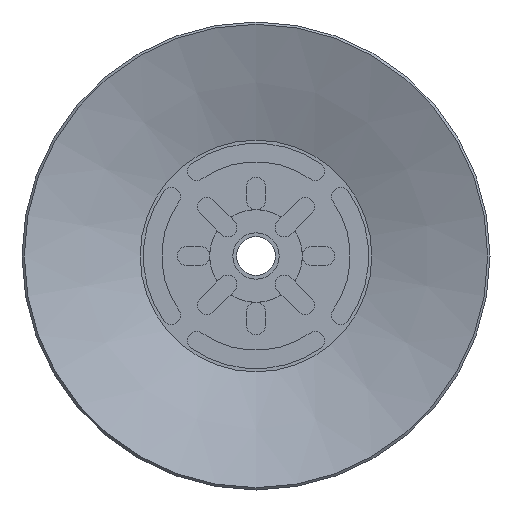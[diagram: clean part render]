
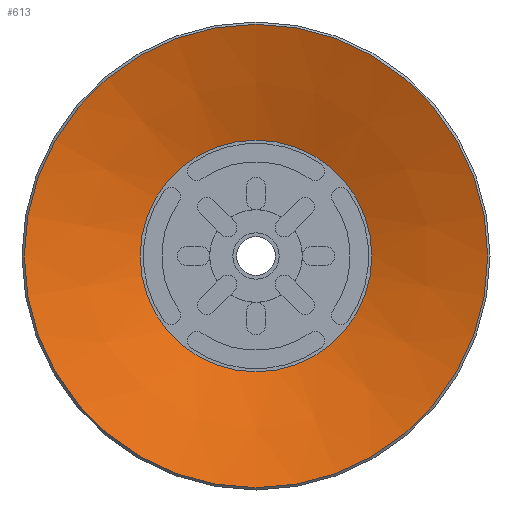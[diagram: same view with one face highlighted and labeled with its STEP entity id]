
A CAD part, front view. The second image highlights one B-rep face of the part: STEP entity #613.
In plain terms, the highlighted conical face has half-angle 70.201 degrees and reference radius 7.5 mm.
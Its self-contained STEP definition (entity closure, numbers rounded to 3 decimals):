
#613=ADVANCED_FACE('',(#1031,#1032),#1033,.F.);
#1031=FACE_BOUND('',#1539,.T.);
#1032=FACE_OUTER_BOUND('',#1540,.T.);
#1033=CONICAL_SURFACE('',#1541,7.5,1.225);
#1539=EDGE_LOOP('',(#3101));
#1540=EDGE_LOOP('',(#3102));
#1541=AXIS2_PLACEMENT_3D('',#3103,#3104,#3105);
#3101=ORIENTED_EDGE('',*,*,#3853,.F.);
#3102=ORIENTED_EDGE('',*,*,#3854,.T.);
#3103=CARTESIAN_POINT('',(0.0,0.0,2.7));
#3104=DIRECTION('',(0.0,0.,-1.0));
#3105=DIRECTION('',(0.0,1.0,0.));
#3853=EDGE_CURVE('',#4569,#4569,#4570,.T.);
#3854=EDGE_CURVE('',#4571,#4571,#4572,.T.);
#4569=VERTEX_POINT('',#5861);
#4570=CIRCLE('',#5862,7.5);
#4571=VERTEX_POINT('',#5863);
#4572=CIRCLE('',#5864,15.0);
#5861=CARTESIAN_POINT('',(0.0,7.5,2.7));
#5862=AXIS2_PLACEMENT_3D('',#6959,#6960,#6961);
#5863=CARTESIAN_POINT('',(0.0,15.0,0.));
#5864=AXIS2_PLACEMENT_3D('',#6962,#6963,#6964);
#6959=CARTESIAN_POINT('',(0.0,0.0,2.7));
#6960=DIRECTION('',(0.0,0.,-1.0));
#6961=DIRECTION('',(0.0,1.0,0.));
#6962=CARTESIAN_POINT('',(0.0,0.0,0.0));
#6963=DIRECTION('',(0.0,0.,-1.0));
#6964=DIRECTION('',(0.0,1.0,0.));
